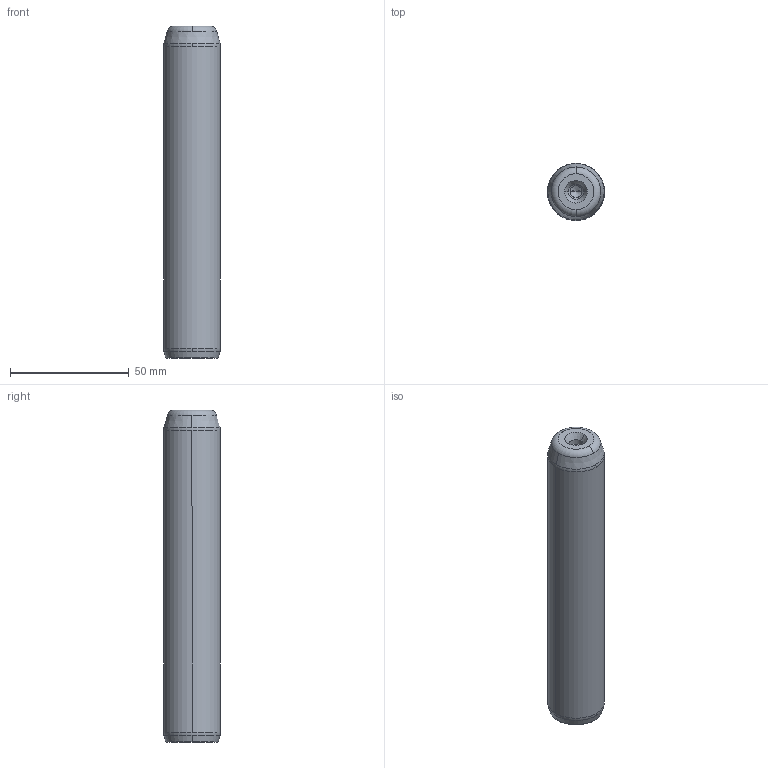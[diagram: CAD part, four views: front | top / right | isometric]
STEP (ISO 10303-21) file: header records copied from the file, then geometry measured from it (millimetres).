
FILE_DESCRIPTION((''),'2;1');
FILE_NAME('P10_024_140.stp','2008-12-23T14:34:55',(''),(''),'Mechanical Desktop 2009','Mechanical Desktop 2009',', , ');
FILE_SCHEMA(('CONFIG_CONTROL_DESIGN'));
Length unit declared in the file: millimetre
Products named in the file (5): Product; ProductAA; blmdl1; ProductA; blmdl1A
Assembly tree (2 placements, depth 3):
  Product
    ProductAA
      blmdl1
  ProductA
  blmdl1A
Bounding box: 24 x 24 x 140 mm (x, y, z)
Volume: 62001.3 mm3; surface area: 11492.5 mm2
Topology: 1 solids, 1 shells, 26 faces, 66 edges, 41 vertices
Faces by surface type: cone 10, torus 8, cylinder 6, plane 2
Entity records: 1012 total; most frequent: DIRECTION 170, CARTESIAN_POINT 134, ORIENTED_EDGE 128, AXIS2_PLACEMENT_3D 77, EDGE_CURVE 64, CIRCLE 48, VERTEX_POINT 41, EDGE_LOOP 27
